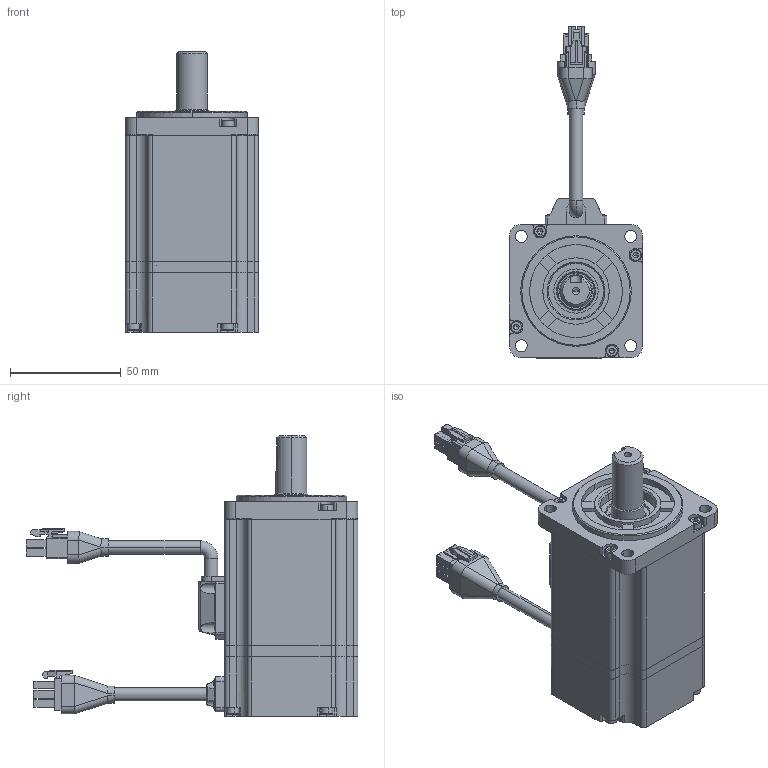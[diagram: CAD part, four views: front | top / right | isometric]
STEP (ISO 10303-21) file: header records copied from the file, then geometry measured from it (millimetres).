
FILE_DESCRIPTION (( 'STEP AP203' ), '1' );
FILE_NAME ('R60-400.STEP', '2019-08-23T05:45:53', ( '1' ), ( 'MideaGroup IT' ), 'SwSTEP 2.0', 'SolidWorks 2012', '' );
FILE_SCHEMA (( 'CONFIG_CONTROL_DESIGN' ));
Length unit declared in the file: millimetre
Products named in the file (25): R60-400; M3X28_GB_FASTENER_SCREWS_HSHCS M3X25-C; 雄薯盄揤裔郪璃; 雄薯盄傷赽裔; 雄薯盄; 雄薯盄傷赽; 雄薯盄躇猾菜; 雄薯盄揤裔; 毀嚏盄揤裔郪璃; 毀嚏盄傷赽揤裔; M2.5X5_GB_CROSS_SCREWS_TYPE3 M2.5X8-8-N; 晤鎢ん盄傷赽; 晤鎢ん盄揤裔躇猾; 晤鎢ん盄揤裔; 蛌赽郪璃-001; 6003; 6003_qiu; 6003_bq; 6003_nh; 6003_wq; 萇儂粣-001; 綴裔-001; 綴傷裔-001; ヶ傷裔-001; 儂褲-001
Assembly tree (48 placements, depth 4):
  R60-400
    儂褲-001
    ヶ傷裔-001
    綴傷裔-001
    綴裔-001
    蛌赽郪璃-001
      萇儂粣-001
      6003
        6003_wq
        6003_nh
        6003_bq
        6003_qiu  x11
    毀嚏盄揤裔郪璃
      晤鎢ん盄揤裔
      晤鎢ん盄揤裔躇猾
      晤鎢ん盄傷赽
      M2.5X5_GB_CROSS_SCREWS_TYPE3 M2.5X8-8-N  x4
      毀嚏盄傷赽揤裔
    雄薯盄揤裔郪璃
      雄薯盄揤裔
      雄薯盄躇猾菜
      雄薯盄傷赽
      雄薯盄
      M2.5X5_GB_CROSS_SCREWS_TYPE3 M2.5X8-8-N  x4
      雄薯盄傷赽裔
    M3X28_GB_FASTENER_SCREWS_HSHCS M3X25-C  x8
Bounding box: 60.2 x 150 x 127 mm (x, y, z)
Volume: 136240.1 mm3; surface area: 93907.5 mm2
Topology: 46 solids, 72 shells, 1572 faces, 4258 edges, 2806 vertices
Faces by surface type: plane 765, cylinder 610, cone 89, torus 56, sphere 38, bspline 14
Entity records: 46373 total; most frequent: CARTESIAN_POINT 11939, DIRECTION 6594, ORIENTED_EDGE 6281, EDGE_CURVE 3321, AXIS2_PLACEMENT_3D 2333, VERTEX_POINT 2210, LINE 1928, VECTOR 1928
